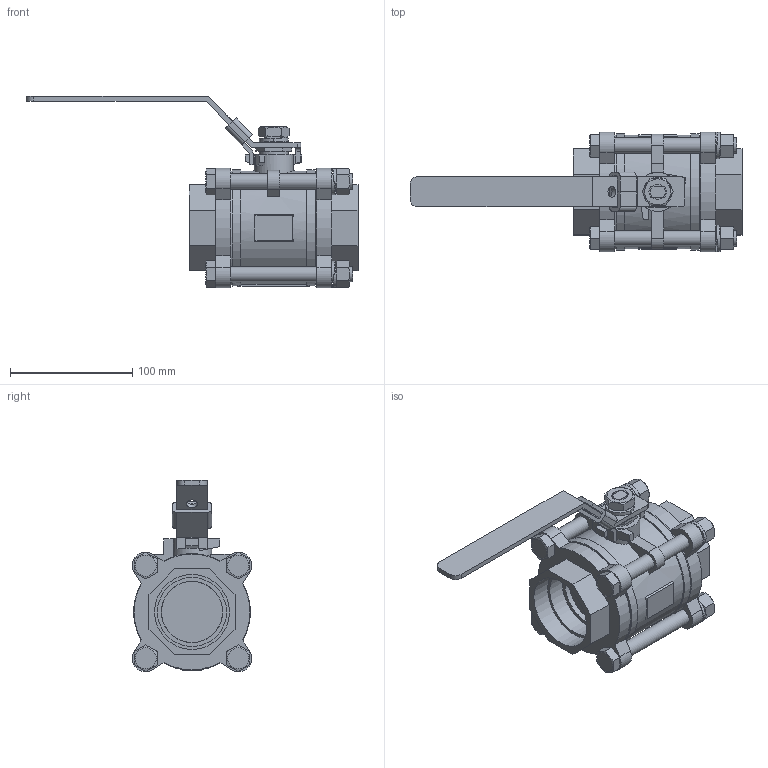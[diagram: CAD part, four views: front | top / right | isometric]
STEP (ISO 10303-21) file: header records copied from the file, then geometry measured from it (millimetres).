
FILE_DESCRIPTION((' '),'2;1');
FILE_NAME('N:\Technical Support\Private\Jomar Valve CAD\Ball Valves\CS and SS\1000N-4B\2.0 S-CS[SS]-1000N-4B (500-508 [500-348]) FusionCopy.stp.step','2016-07-05T11:53:05',(' '),(' '),' ','ACIS',' ');
FILE_SCHEMA(('CONFIG_CONTROL_DESIGN'));
Length unit declared in the file: inch
Products named in the file (22): N:\Technical Support\Private\Jomar Valve CAD\Ball Valves\CS and SS\1000N-4B\2.0 S-CS[SS]-1000N-4B (500-508 [500-348]) FusionCopy.stp.step; Body1; Body2; Body3; Body4; Body5; Body6; Body7; Body8; Body9; Body10; Body11; Body12; Body13; Body14; Body15; Body16; Body17; Body18; Body19; Body20; Body21
Assembly tree (21 placements, depth 2):
  N:\Technical Support\Private\Jomar Valve CAD\Ball Valves\CS and SS\1000N-4B\2.0 S-CS[SS]-1000N-4B (500-508 [500-348]) FusionCopy.stp.step
    Body1
    Body2
    Body3
    Body4
    Body5
    Body6
    Body7
    Body8
    Body9
    Body10
    Body11
    Body12
    Body13
    Body14
    Body15
    Body16
    Body17
    Body18
    Body19
    Body20
    Body21
Bounding box: 271.57 x 97.73 x 156.55 mm (x, y, z)
Volume: 804992.6 mm3; surface area: 155496.3 mm2
Topology: 21 solids, 21 shells, 395 faces, 993 edges, 640 vertices
Faces by surface type: plane 171, bspline 134, cylinder 57, cone 33
Full cylindrical faces by diameter (mm): 8.966 x1, 10.897 x2, 12.344 x1, 12.548 x2, 13.843 x4, 16.993 x1, 17.78 x1, 23.673 x1, 32.131 x1, 50.038 x1, 56.515 x1, 61.29 x1
Entity records: 15301 total; most frequent: CARTESIAN_POINT 3405, ORIENTED_EDGE 1852, DIRECTION 1707, EDGE_CURVE 926, VERTEX_POINT 617, AXIS2_PLACEMENT_3D 573, VECTOR 561, LINE 561
